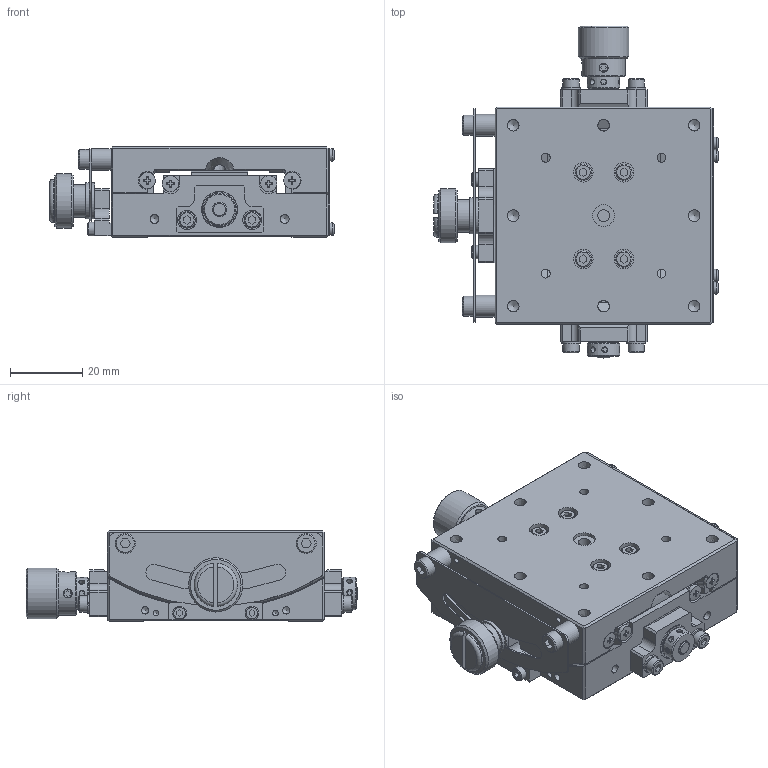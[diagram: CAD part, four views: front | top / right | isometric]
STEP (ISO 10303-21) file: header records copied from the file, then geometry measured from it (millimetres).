
FILE_DESCRIPTION((''),'2;1');
FILE_NAME('S:\1規格品図面ﾃﾞｰﾀ\OpticalHard\01_国内製品\1_Stags\GOHT\60\GOHT-60A35\GOHT-60A35.stp','2007-08-22T17:00:52',('okegawa'),(''),'Autodesk Inventor 11','Autodesk Inventor 11','');
FILE_SCHEMA(('AUTOMOTIVE_DESIGN { 1 0 10303 214 1 1 1 1 }'));
Length unit declared in the file: millimetre
Products named in the file (3): GOHT60A35-M02-06001-S11; GOHT60A35-M02-06001-S09; GOHT60A35-M02-06001-S10
Assembly tree (2 placements, depth 2):
  GOHT60A35-M02-06001-S11
    GOHT60A35-M02-06001-S09
    GOHT60A35-M02-06001-S10
Bounding box: 78.74 x 91.73 x 25 mm (x, y, z)
Volume: 78861.6 mm3; surface area: 37269.7 mm2
Topology: 2 solids, 56 shells, 1107 faces, 2692 edges, 1744 vertices
Faces by surface type: plane 615, bspline 212, cylinder 178, cone 65, torus 25, sphere 12
Full cylindrical faces by diameter (mm): 1.5 x8, 2 x6, 2.459 x3, 2.5 x8, 3 x3, 3.8 x2, 4 x6, 4.2 x2, 4.5 x16, 5.2 x1, 5.5 x2, 5.7 x1, 5.8 x2, 5.92 x8, 6 x3, 6.9 x2, 8.08 x4, 8.484 x4, 9 x3, 10 x2, 12 x1, 14 x1, 15 x1
Entity records: 34507 total; most frequent: CARTESIAN_POINT 11598, DIRECTION 4582, ORIENTED_EDGE 4254, EDGE_CURVE 2127, AXIS2_PLACEMENT_3D 1703, EDGE_LOOP 1612, VERTEX_POINT 1531, VECTOR 1176
